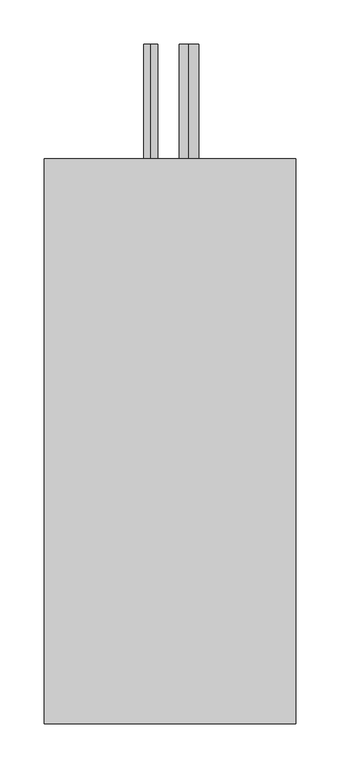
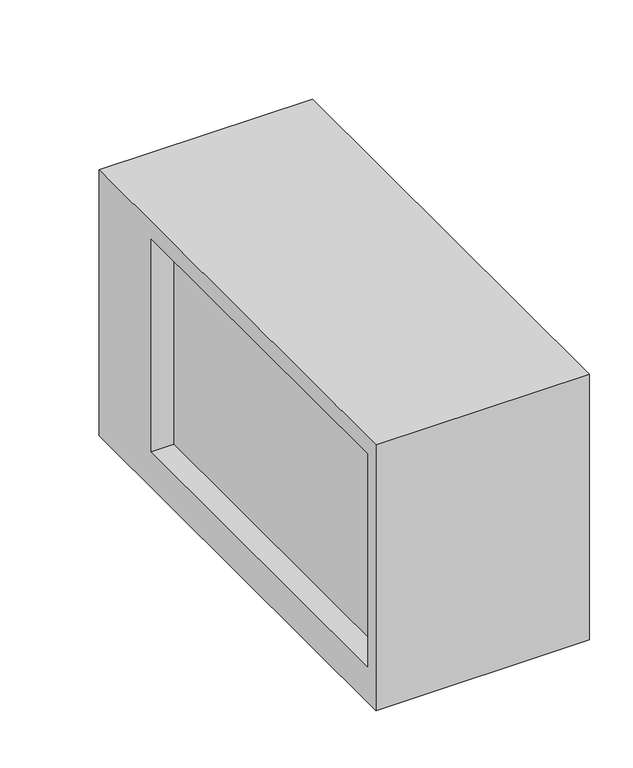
"""IFC4 building model written with IfcOpenShell, lengths in millimetres: proxy geometry, СВ_ВоздухоохладительФреоновый_КанальныйПрямоугольный_200-1000_SPC-F : SPC-F-500x300-L."""

from ifc_helpers import new_model, si_unit, point, frame, frame_2d, origin, place, context, project, spatial, polyline, circle_curve, trimmed, segment, composite_curve, outline, extrude, source, transform, mapped, element, save


def mechanical_equipment_a9e5a7ee(model_context):
    return source(origin(), model_context, "Body", "SweptSolid", [
        extrude(outline(polyline([(-270.0, -200.0), (-270.0, 175.0), (370.0, 175.0), (370.0, -200.0), (-270.0, -200.0)]), holes=[polyline([(-250.0, 150.0), (-250.0, -150.0), (250.0, -150.0), (250.0, 150.0), (-250.0, 150.0)])]), frame((-142.5, 0.0, 0.0), z_axis=(1.0, 0.0, 0.0), x_axis=(0.0, 1.0, 0.0)), (0.0, 0.0, 1.0), 285.0),
        extrude(outline(composite_curve([segment(trimmed(circle_curve(frame_2d((-100.0, 21.5)), 11.1), [point((-111.1, 21.5))], [point((-88.9, 21.5))], False, "CARTESIAN"), True, "CONTINUOUS"), segment(trimmed(circle_curve(frame_2d((-100.0, 21.5)), 11.1), [point((-88.9, 21.5))], [point((-111.1, 21.5))], False, "CARTESIAN"), True, "CONTINUOUS")], self_intersect=False)), frame((0.0, 370.0, 0.0), z_axis=(0.0, 1.0, 0.0), x_axis=(0.0, 0.0, 1.0)), (0.0, 0.0, 1.0), 130.0),
        extrude(outline(composite_curve([segment(trimmed(circle_curve(frame_2d((60.0, -21.5)), 7.95), [point((52.05, -21.5))], [point((67.95, -21.5))], False, "CARTESIAN"), True, "CONTINUOUS"), segment(trimmed(circle_curve(frame_2d((60.0, -21.5)), 7.95), [point((67.95, -21.5))], [point((52.05, -21.5))], False, "CARTESIAN"), True, "CONTINUOUS")], self_intersect=False)), frame((0.0, 370.0, 0.0), z_axis=(0.0, 1.0, 0.0), x_axis=(0.0, 0.0, 1.0)), (0.0, 0.0, 1.0), 130.0),
        extrude(outline(composite_curve([segment(trimmed(circle_curve(frame_2d((0.0, 330.0)), 11.0), [point((-11.0, 330.0))], [point((11.0, 330.0))], False, "CARTESIAN"), True, "CONTINUOUS"), segment(trimmed(circle_curve(frame_2d((0.0, 330.0)), 11.0), [point((11.0, 330.0))], [point((-11.0, 330.0))], False, "CARTESIAN"), True, "CONTINUOUS")], self_intersect=False)), frame((0.0, 0.0, -220.0), z_axis=(0.0, 0.0, 1.0), x_axis=(1.0, 0.0, 0.0)), (0.0, 0.0, 1.0), 20.0),
        extrude(outline(polyline([(112.5, 250.0), (112.5, -250.0), (-112.5, -250.0), (-112.5, 250.0), (112.5, 250.0)])), frame((0.0, 0.0, -150.0), z_axis=(0.0, 0.0, 1.0), x_axis=(1.0, 0.0, 0.0)), (0.0, 0.0, 1.0), 300.0),
    ])


if __name__ == "__main__":
    model = new_model("IFC4")
    model_context = context("Model", 3, world=origin())
    ifc_project = project(units=[si_unit("LENGTHUNIT", "METRE", prefix="MILLI")], contexts=[model_context])
    site = spatial("IfcSite", under=ifc_project)
    building = spatial("IfcBuilding", under=site)
    placement = place(None, origin())
    mechanical_equipment_shape = mechanical_equipment_a9e5a7ee(model_context)
    element("IfcBuildingElementProxy", 1, Name="СВ_ВоздухоохладительФреоновый_КанальныйПрямоугольный_200-1000_SPC-F : SPC-F-500x300-L", ObjectType="СВ_ВоздухоохладительФреоновый_КанальныйПрямоугольный_200-1000_SPC-F : SPC-F-500x300-L", at=placement, inside=building, context=model_context, shape_type="MappedRepresentation", body=[
        mapped(mechanical_equipment_shape, transform((0.0, 0.0, 0.0), x_axis=(1.0, 0.0, 0.0), y_axis=(0.0, 1.0, 0.0), z_axis=(0.0, 0.0, 1.0))),
    ])
    save(model, "model.ifc")
